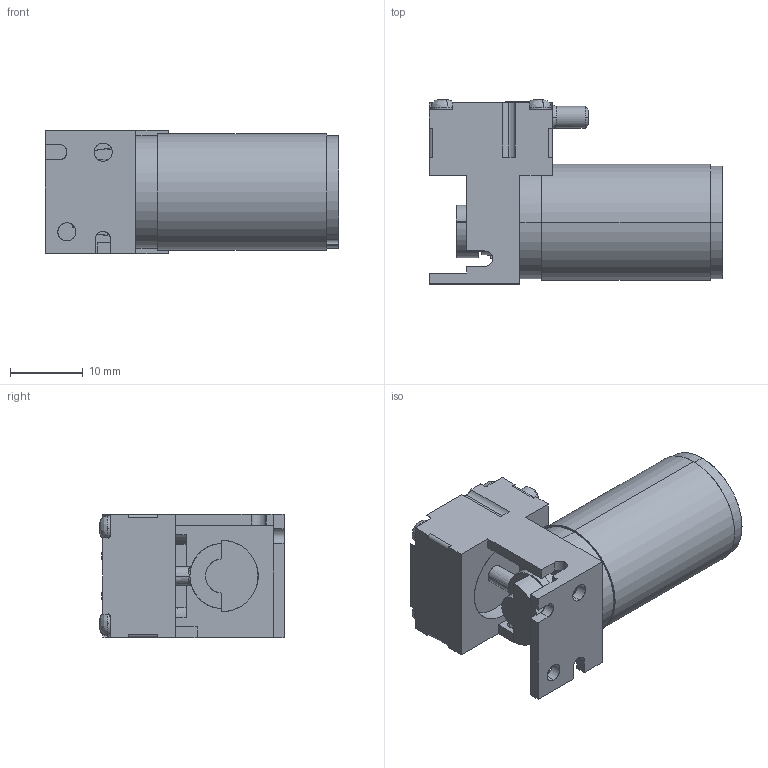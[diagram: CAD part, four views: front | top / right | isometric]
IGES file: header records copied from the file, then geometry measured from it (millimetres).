
Start section: SolidWorks IGES file using analytic representation for surfaces
Global section: file name: Q:\2016\03 Nautilus\41 6410 Shell Creation\Fertige Hüllen\20020304\20020304-18.IGS; native system: SolidWorks 2018; preprocessor: SolidWorks 2018; author: hxs2830; date: 190709.140231; units: inch
Bounding box: 40.5 x 25.4 x 17 mm (x, y, z)
Surface area: 4400.3 mm2 (no closed solid volume)
Topology: 0 solids, 0 shells, 188 faces, 2324 edges, 2307 vertices
Faces by surface type: bspline 122, revolution 66
